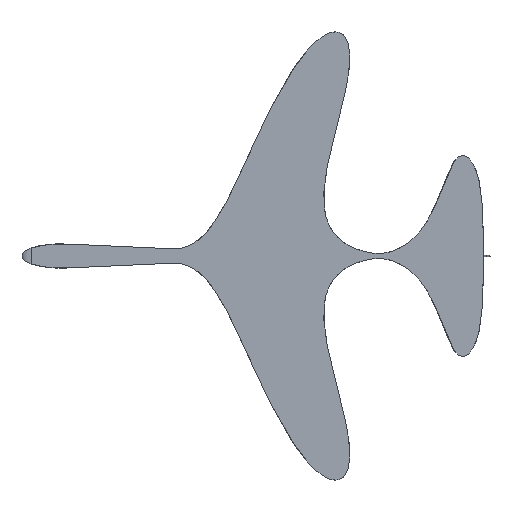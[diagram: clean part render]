
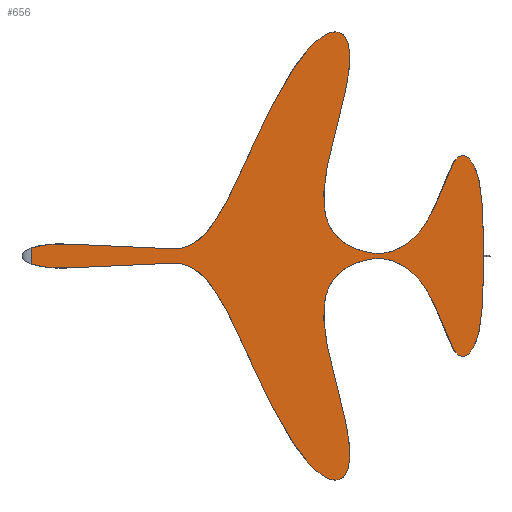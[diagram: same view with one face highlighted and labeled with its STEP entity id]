
A CAD part, front view. The second image highlights one B-rep face of the part: STEP entity #656.
In plain terms, the highlighted planar face has unit normal (0, -1, 0).
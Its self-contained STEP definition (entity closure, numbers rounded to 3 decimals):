
#22 = LINE ( 'NONE', #737, #1104 ) ;
#36 = CARTESIAN_POINT ( 'NONE',  ( -91.238, 0., -3.221 ) ) ;
#37 = CARTESIAN_POINT ( 'NONE',  ( 95., 0., -1. ) ) ;
#44 = VERTEX_POINT ( 'NONE', #1261 ) ;
#74 = CARTESIAN_POINT ( 'NONE',  ( 67.366, 0., -49.954 ) ) ;
#102 = CARTESIAN_POINT ( 'NONE',  ( 23.001, 0., -128.834 ) ) ;
#172 = B_SPLINE_CURVE_WITH_KNOTS ( 'NONE', 2,
 ( #377, #901, #1403 ),
 .UNSPECIFIED., .F., .F.,
 ( 3, 3 ),
 ( 0., 0.274 ),
 .UNSPECIFIED. ) ;
#176 = CARTESIAN_POINT ( 'NONE',  ( -76.244, 0., 4.925 ) ) ;
#215 = DIRECTION ( 'NONE',  ( 0., 0., 1. ) ) ;
#223 = CARTESIAN_POINT ( 'NONE',  ( 95.121, 0., -20.175 ) ) ;
#226 = LINE ( 'NONE', #2134, #1974 ) ;
#230 = CARTESIAN_POINT ( 'NONE',  ( 93.011, 0., 36.727 ) ) ;
#291 = CARTESIAN_POINT ( 'NONE',  ( 49.799, 0., 1.141 ) ) ;
#294 = CARTESIAN_POINT ( 'NONE',  ( 49.799, 0., -1.141 ) ) ;
#362 = ORIENTED_EDGE ( 'NONE', *, *, #1693, .F. ) ;
#377 = CARTESIAN_POINT ( 'NONE',  ( -76.244, 0., -4.925 ) ) ;
#405 = CARTESIAN_POINT ( 'NONE',  ( 63.823, 0., -0.982 ) ) ;
#430 = VERTEX_POINT ( 'NONE', #545 ) ;
#445 = ORIENTED_EDGE ( 'NONE', *, *, #467, .T. ) ;
#452 = CARTESIAN_POINT ( 'NONE',  ( 67.366, 0., 49.954 ) ) ;
#465 = CARTESIAN_POINT ( 'NONE',  ( 25.662, 0., 4.794 ) ) ;
#466 = CARTESIAN_POINT ( 'NONE',  ( -5.402, 0., -1.969 ) ) ;
#467 = EDGE_CURVE ( 'NONE', #720, #700, #172, .T. ) ;
#484 = ORIENTED_EDGE ( 'NONE', *, *, #1060, .F. ) ;
#523 = EDGE_CURVE ( 'NONE', #2163, #1645, #2285, .T. ) ;
#545 = CARTESIAN_POINT ( 'NONE',  ( -76.244, 0., 4.925 ) ) ;
#598 = CARTESIAN_POINT ( 'NONE',  ( 88.536, 0., -60.034 ) ) ;
#603 = CARTESIAN_POINT ( 'NONE',  ( 94.927, 0., 31.445 ) ) ;
#608 = CARTESIAN_POINT ( 'NONE',  ( -81.993, 0., 5.24 ) ) ;
#612 = CARTESIAN_POINT ( 'NONE',  ( -87.478, 0., -4.617 ) ) ;
#639 = CARTESIAN_POINT ( 'NONE',  ( 33.003, 0., 110. ) ) ;
#656 = ADVANCED_FACE ( 'NONE', ( #1552 ), #840, .F. ) ;
#676 = CARTESIAN_POINT ( 'NONE',  ( 12.183, 0., -20.952 ) ) ;
#680 = CARTESIAN_POINT ( 'NONE',  ( 0., 0., 0. ) ) ;
#699 = CARTESIAN_POINT ( 'NONE',  ( -55.328, 0., 3.78 ) ) ;
#700 = VERTEX_POINT ( 'NONE', #802 ) ;
#720 = VERTEX_POINT ( 'NONE', #1238 ) ;
#737 = CARTESIAN_POINT ( 'NONE',  ( 95., 0., 0. ) ) ;
#754 = CARTESIAN_POINT ( 'NONE',  ( 93.011, 0., -36.727 ) ) ;
#779 = CARTESIAN_POINT ( 'NONE',  ( 94.927, 0., -31.445 ) ) ;
#782 = B_SPLINE_CURVE_WITH_KNOTS ( 'NONE', 9,
 ( #986, #466, #1694, #102, #2072, #2247, #823, #676, #2063, #294 ),
 .UNSPECIFIED., .F., .F.,
 ( 10, 10 ),
 ( 0., 1. ),
 .UNSPECIFIED. ) ;
#792 = CARTESIAN_POINT ( 'NONE',  ( 92.107, 0., -34.296 ) ) ;
#797 = CARTESIAN_POINT ( 'NONE',  ( -33., 0., 2.967 ) ) ;
#800 = CARTESIAN_POINT ( 'NONE',  ( -76.244, 0., 4.925 ) ) ;
#802 = CARTESIAN_POINT ( 'NONE',  ( -33., 0., -2.967 ) ) ;
#819 = VERTEX_POINT ( 'NONE', #2050 ) ;
#823 = CARTESIAN_POINT ( 'NONE',  ( 29.605, 0., -61.82 ) ) ;
#832 = B_SPLINE_CURVE_WITH_KNOTS ( 'NONE', 2,
 ( #176, #699, #1608 ),
 .UNSPECIFIED., .F., .F.,
 ( 3, 3 ),
 ( 0., 0.274 ),
 .UNSPECIFIED. ) ;
#840 = PLANE ( 'NONE',  #2219 ) ;
#841 = ORIENTED_EDGE ( 'NONE', *, *, #1977, .F. ) ;
#901 = CARTESIAN_POINT ( 'NONE',  ( -55.328, 0., -3.78 ) ) ;
#921 = CARTESIAN_POINT ( 'NONE',  ( 95., 0., -1. ) ) ;
#934 = CARTESIAN_POINT ( 'NONE',  ( -33., 0., 2.967 ) ) ;
#954 = CARTESIAN_POINT ( 'NONE',  ( -91.238, 0., 3.221 ) ) ;
#986 = CARTESIAN_POINT ( 'NONE',  ( -33., 0., -2.967 ) ) ;
#990 = CARTESIAN_POINT ( 'NONE',  ( -87.478, 0., 4.617 ) ) ;
#992 = EDGE_LOOP ( 'NONE', ( #1284, #484, #445, #2283, #1088, #1158, #841, #362, #1532, #2200 ) ) ;
#1060 = EDGE_CURVE ( 'NONE', #720, #1308, #1551, .T. ) ;
#1077 = VERTEX_POINT ( 'NONE', #2008 ) ;
#1088 = ORIENTED_EDGE ( 'NONE', *, *, #523, .T. ) ;
#1104 = VECTOR ( 'NONE', #1434, 1000. ) ;
#1107 = CARTESIAN_POINT ( 'NONE',  ( 95., 0., 1. ) ) ;
#1126 = CARTESIAN_POINT ( 'NONE',  ( 93.706, 0., -15.156 ) ) ;
#1158 = ORIENTED_EDGE ( 'NONE', *, *, #1660, .T. ) ;
#1167 = CARTESIAN_POINT ( 'NONE',  ( 29.605, 0., 61.82 ) ) ;
#1238 = CARTESIAN_POINT ( 'NONE',  ( -76.244, 0., -4.925 ) ) ;
#1261 = CARTESIAN_POINT ( 'NONE',  ( -91.238, 0., 3.221 ) ) ;
#1265 = EDGE_CURVE ( 'NONE', #1308, #44, #226, .T. ) ;
#1284 = ORIENTED_EDGE ( 'NONE', *, *, #1265, .F. ) ;
#1307 = CARTESIAN_POINT ( 'NONE',  ( 92.107, 0., 34.296 ) ) ;
#1308 = VERTEX_POINT ( 'NONE', #36 ) ;
#1341 = CARTESIAN_POINT ( 'NONE',  ( 12.183, 0., 20.952 ) ) ;
#1369 = DIRECTION ( 'NONE',  ( 0., 1., 0. ) ) ;
#1403 = CARTESIAN_POINT ( 'NONE',  ( -33., 0., -2.967 ) ) ;
#1423 = B_SPLINE_CURVE_WITH_KNOTS ( 'NONE', 9,
 ( #797, #1508, #1867, #2210, #639, #1496, #1167, #1341, #465, #291 ),
 .UNSPECIFIED., .F., .F.,
 ( 10, 10 ),
 ( 0., 1. ),
 .UNSPECIFIED. ) ;
#1434 = DIRECTION ( 'NONE',  ( 0., 0., 1. ) ) ;
#1454 = CARTESIAN_POINT ( 'NONE',  ( -91.238, 0., -3.221 ) ) ;
#1468 = CARTESIAN_POINT ( 'NONE',  ( 49.799, 0., -1.141 ) ) ;
#1496 = CARTESIAN_POINT ( 'NONE',  ( 82.997, 0., 106.06 ) ) ;
#1503 = DIRECTION ( 'NONE',  ( 0., 0., 1. ) ) ;
#1508 = CARTESIAN_POINT ( 'NONE',  ( -5.402, 0., 1.969 ) ) ;
#1532 = ORIENTED_EDGE ( 'NONE', *, *, #1927, .F. ) ;
#1551 =( BOUNDED_CURVE ( )  B_SPLINE_CURVE ( 3, ( #2154, #2182, #612, #1454 ),
 .UNSPECIFIED., .F., .F. ) 
 B_SPLINE_CURVE_WITH_KNOTS ( ( 4, 4 ),
 ( 4.539, 5.583 ),
 .UNSPECIFIED. ) 
 CURVE ( )  GEOMETRIC_REPRESENTATION_ITEM ( )  RATIONAL_B_SPLINE_CURVE ( ( 1., 0.911, 0.911, 1. ) ) 
 REPRESENTATION_ITEM ( '' )  );
#1552 = FACE_OUTER_BOUND ( 'NONE', #992, .T. ) ;
#1608 = CARTESIAN_POINT ( 'NONE',  ( -33., 0., 2.967 ) ) ;
#1622 = CARTESIAN_POINT ( 'NONE',  ( 95.121, 0., 20.175 ) ) ;
#1645 = VERTEX_POINT ( 'NONE', #37 ) ;
#1650 = CARTESIAN_POINT ( 'NONE',  ( 63.823, 0., 0.982 ) ) ;
#1660 = EDGE_CURVE ( 'NONE', #1645, #819, #22, .T. ) ;
#1693 = EDGE_CURVE ( 'NONE', #2100, #1077, #1423, .T. ) ;
#1694 = CARTESIAN_POINT ( 'NONE',  ( -0.998, 0., -50.008 ) ) ;
#1742 = EDGE_CURVE ( 'NONE', #44, #430, #2191, .T. ) ;
#1819 = CARTESIAN_POINT ( 'NONE',  ( 88.536, 0., 60.034 ) ) ;
#1830 = CARTESIAN_POINT ( 'NONE',  ( 49.799, 0., 1.141 ) ) ;
#1842 = CARTESIAN_POINT ( 'NONE',  ( 93.706, 0., 15.156 ) ) ;
#1867 = CARTESIAN_POINT ( 'NONE',  ( -0.998, 0., 50.008 ) ) ;
#1927 = EDGE_CURVE ( 'NONE', #430, #2100, #832, .T. ) ;
#1974 = VECTOR ( 'NONE', #215, 1000. ) ;
#1977 = EDGE_CURVE ( 'NONE', #1077, #819, #2098, .T. ) ;
#1996 = CARTESIAN_POINT ( 'NONE',  ( 49.799, 0., -1.141 ) ) ;
#2008 = CARTESIAN_POINT ( 'NONE',  ( 49.799, 0., 1.141 ) ) ;
#2050 = CARTESIAN_POINT ( 'NONE',  ( 95., 0., 1. ) ) ;
#2063 = CARTESIAN_POINT ( 'NONE',  ( 25.662, 0., -4.794 ) ) ;
#2071 = EDGE_CURVE ( 'NONE', #700, #2163, #782, .T. ) ;
#2072 = CARTESIAN_POINT ( 'NONE',  ( 33.003, 0., -110. ) ) ;
#2098 = B_SPLINE_CURVE_WITH_KNOTS ( 'NONE', 9,
 ( #1830, #405, #1842, #452, #1819, #230, #1307, #603, #1622, #1107 ),
 .UNSPECIFIED., .F., .F.,
 ( 10, 10 ),
 ( 0., 1. ),
 .UNSPECIFIED. ) ;
#2100 = VERTEX_POINT ( 'NONE', #934 ) ;
#2134 = CARTESIAN_POINT ( 'NONE',  ( -91.238, 0., -10. ) ) ;
#2154 = CARTESIAN_POINT ( 'NONE',  ( -76.244, 0., -4.925 ) ) ;
#2163 = VERTEX_POINT ( 'NONE', #1468 ) ;
#2182 = CARTESIAN_POINT ( 'NONE',  ( -81.993, 0., -5.24 ) ) ;
#2191 =( BOUNDED_CURVE ( )  B_SPLINE_CURVE ( 3, ( #954, #990, #608, #800 ),
 .UNSPECIFIED., .F., .F. ) 
 B_SPLINE_CURVE_WITH_KNOTS ( ( 4, 4 ),
 ( 0.7, 1.744 ),
 .UNSPECIFIED. ) 
 CURVE ( )  GEOMETRIC_REPRESENTATION_ITEM ( )  RATIONAL_B_SPLINE_CURVE ( ( 1., 0.911, 0.911, 1. ) ) 
 REPRESENTATION_ITEM ( '' )  );
#2200 = ORIENTED_EDGE ( 'NONE', *, *, #1742, .F. ) ;
#2210 = CARTESIAN_POINT ( 'NONE',  ( 23.001, 0., 128.834 ) ) ;
#2219 = AXIS2_PLACEMENT_3D ( 'NONE', #680, #1369, #1503 ) ;
#2247 = CARTESIAN_POINT ( 'NONE',  ( 82.997, 0., -106.06 ) ) ;
#2283 = ORIENTED_EDGE ( 'NONE', *, *, #2071, .T. ) ;
#2285 = B_SPLINE_CURVE_WITH_KNOTS ( 'NONE', 9,
 ( #1996, #1650, #1126, #74, #598, #754, #792, #779, #223, #921 ),
 .UNSPECIFIED., .F., .F.,
 ( 10, 10 ),
 ( 0., 1. ),
 .UNSPECIFIED. ) ;
